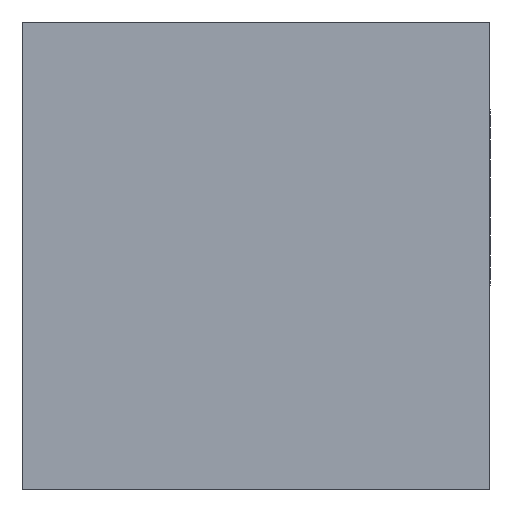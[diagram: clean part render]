
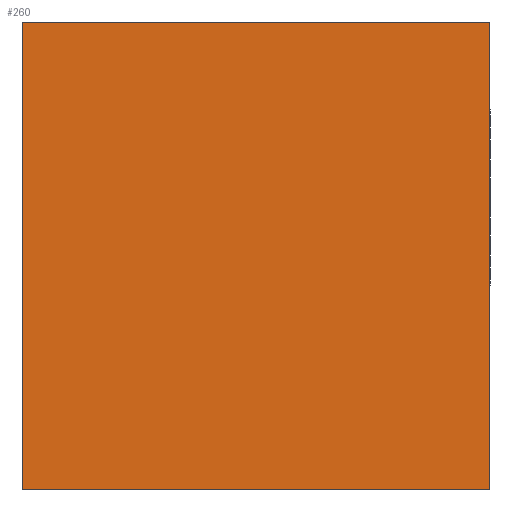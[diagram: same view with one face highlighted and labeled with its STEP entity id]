
A CAD part, left-side view. The second image highlights one B-rep face of the part: STEP entity #260.
In plain terms, the highlighted planar face has unit normal (-1, 0, 0).
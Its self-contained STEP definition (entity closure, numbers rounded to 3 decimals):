
#76 = CARTESIAN_POINT ( 'NONE',  ( 0., 4., 4. ) ) ;
#150 = CARTESIAN_POINT ( 'NONE',  ( 0., 0., -4. ) ) ;
#253 = VECTOR ( 'NONE', #2047, 1000. ) ;
#260 = ADVANCED_FACE ( 'NONE', ( #1604 ), #1886, .T. ) ;
#283 = DIRECTION ( 'NONE',  ( 0., 0., -1. ) ) ;
#333 = DIRECTION ( 'NONE',  ( 0., -1., 0. ) ) ;
#357 = ORIENTED_EDGE ( 'NONE', *, *, #545, .F. ) ;
#465 = VERTEX_POINT ( 'NONE', #2105 ) ;
#469 = CARTESIAN_POINT ( 'NONE',  ( 0., 4., 4. ) ) ;
#545 = EDGE_CURVE ( 'NONE', #1873, #624, #2321, .T. ) ;
#624 = VERTEX_POINT ( 'NONE', #1425 ) ;
#627 = CARTESIAN_POINT ( 'NONE',  ( 0., 4., 4. ) ) ;
#700 = ORIENTED_EDGE ( 'NONE', *, *, #1051, .T. ) ;
#765 = ORIENTED_EDGE ( 'NONE', *, *, #1466, .T. ) ;
#932 = LINE ( 'NONE', #469, #1415 ) ;
#982 = AXIS2_PLACEMENT_3D ( 'NONE', #1877, #992, #2245 ) ;
#992 = DIRECTION ( 'NONE',  ( -1., 0., 0. ) ) ;
#1051 = EDGE_CURVE ( 'NONE', #1873, #2327, #2167, .T. ) ;
#1127 = DIRECTION ( 'NONE',  ( 0., 0., -1. ) ) ;
#1415 = VECTOR ( 'NONE', #283, 1000. ) ;
#1425 = CARTESIAN_POINT ( 'NONE',  ( 0., -4., -4. ) ) ;
#1466 = EDGE_CURVE ( 'NONE', #2327, #465, #932, .T. ) ;
#1604 = FACE_OUTER_BOUND ( 'NONE', #2085, .T. ) ;
#1649 = CARTESIAN_POINT ( 'NONE',  ( 0., -4., 4. ) ) ;
#1653 = VECTOR ( 'NONE', #333, 1000. ) ;
#1690 = EDGE_CURVE ( 'NONE', #465, #624, #1961, .T. ) ;
#1850 = VECTOR ( 'NONE', #1127, 1000. ) ;
#1873 = VERTEX_POINT ( 'NONE', #1649 ) ;
#1877 = CARTESIAN_POINT ( 'NONE',  ( 0., 4., 4. ) ) ;
#1886 = PLANE ( 'NONE',  #982 ) ;
#1961 = LINE ( 'NONE', #150, #1653 ) ;
#2019 = CARTESIAN_POINT ( 'NONE',  ( 0., -4., 4. ) ) ;
#2047 = DIRECTION ( 'NONE',  ( 0., 1., 0. ) ) ;
#2085 = EDGE_LOOP ( 'NONE', ( #700, #765, #2290, #357 ) ) ;
#2105 = CARTESIAN_POINT ( 'NONE',  ( 0., 4., -4. ) ) ;
#2167 = LINE ( 'NONE', #76, #253 ) ;
#2245 = DIRECTION ( 'NONE',  ( 0., 0., 1. ) ) ;
#2290 = ORIENTED_EDGE ( 'NONE', *, *, #1690, .T. ) ;
#2321 = LINE ( 'NONE', #2019, #1850 ) ;
#2327 = VERTEX_POINT ( 'NONE', #627 ) ;
